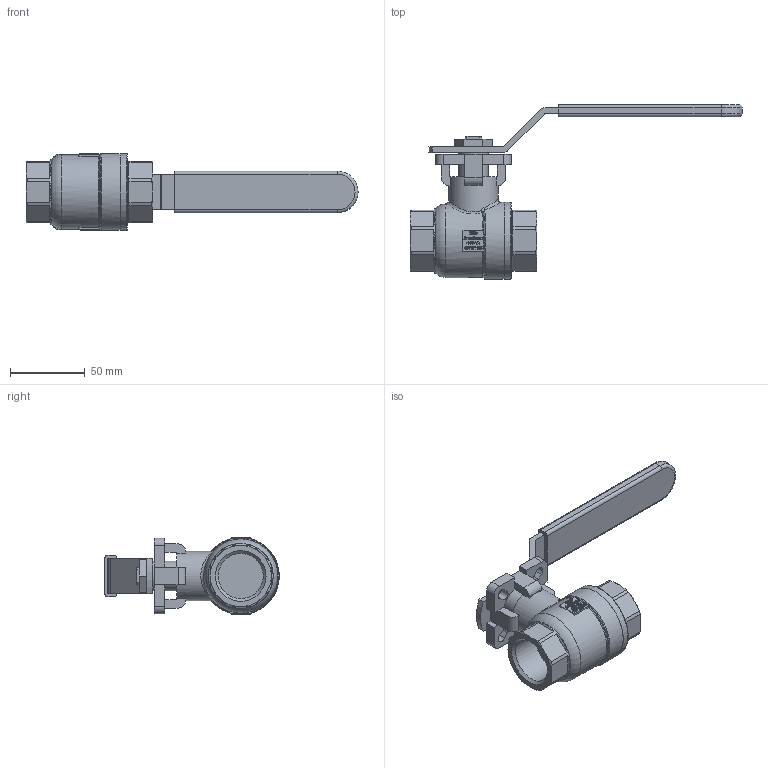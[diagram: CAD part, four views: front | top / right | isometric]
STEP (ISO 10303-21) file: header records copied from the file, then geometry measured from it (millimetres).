
FILE_DESCRIPTION((''),'2;1');
FILE_NAME('K:\Inventor\1 Artikel\11) Muffen-Kugelhähne\11a) manuell\Econosto\440-VA, 7752ISO\440-VA, G1\440-VA, G1, 3D\440-VA, G1, PN68, HH, 3D.stp','2019-10-24T14:40:13',('claudia'),(''),'Autodesk Inventor 2013','Autodesk Inventor 2013','');
FILE_SCHEMA(('AUTOMOTIVE_DESIGN { 1 0 10303 214 1 1 1 1 }'));
Length unit declared in the file: millimetre
Products named in the file (1): Bauteil7
Bounding box: 222.5 x 116.9 x 51.6 mm (x, y, z)
Volume: 188269.1 mm3; surface area: 44115 mm2
Topology: 1 solids, 1 shells, 1279 faces, 3454 edges, 2280 vertices
Faces by surface type: plane 748, bspline 441, cylinder 55, cone 19, torus 16
Full cylindrical faces by diameter (mm): 20 x1, 30.291 x2, 33 x1, 34 x1, 43.5 x1, 49.4 x1, 51.4 x1, 51.6 x1
Entity records: 43823 total; most frequent: CARTESIAN_POINT 14674, ORIENTED_EDGE 6870, DIRECTION 4371, EDGE_CURVE 3435, VECTOR 2303, LINE 2303, VERTEX_POINT 2275, EDGE_LOOP 1412
